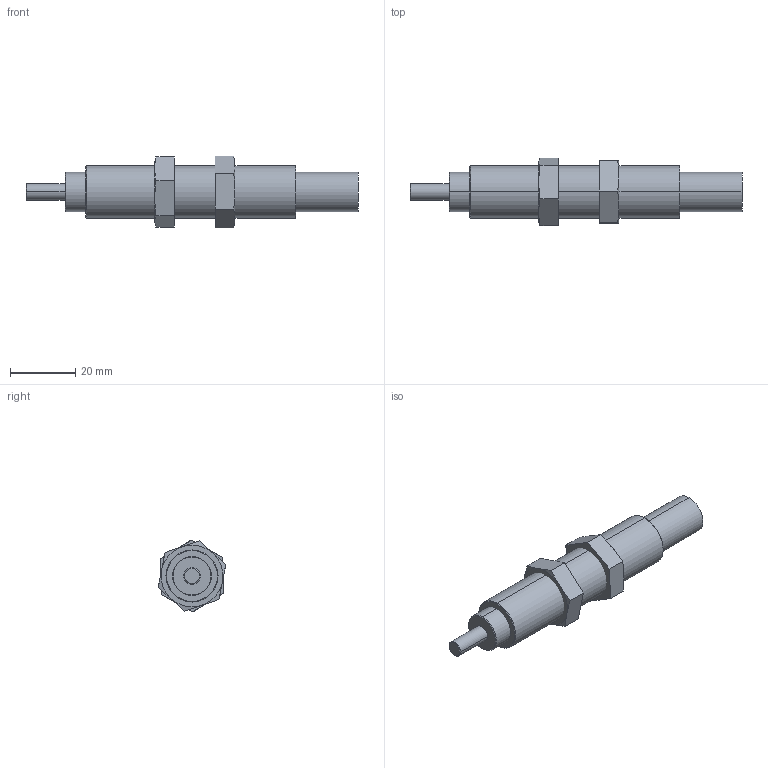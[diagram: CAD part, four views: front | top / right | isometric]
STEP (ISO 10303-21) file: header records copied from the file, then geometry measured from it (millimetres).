
FILE_DESCRIPTION (( 'STEP AP203' ), '1' );
FILE_NAME ('FSA-1612BB(CD).STEP', '2016-03-17T07:45:18', ( 'Sam Lin' ), ( '' ), 'SwSTEP 2.0', 'SolidWorks 2013', '' );
FILE_SCHEMA (( 'CONFIG_CONTROL_DESIGN' ));
Length unit declared in the file: metre
Products named in the file (3): FSA-1612BB(CD)_1; M16x1.5-6mm_1; FSA-1612BB(CD)
Assembly tree (3 placements, depth 2):
  FSA-1612BB(CD)
    FSA-1612BB(CD)_1
    M16x1.5-6mm_1  x2
Bounding box: 102 x 20.79 x 21.93 mm (x, y, z)
Volume: 17852.1 mm3; surface area: 6693.6 mm2
Topology: 3 solids, 3 shells, 53 faces, 118 edges, 74 vertices
Faces by surface type: plane 21, cylinder 12, bspline 12, cone 8
Entity records: 1469 total; most frequent: CARTESIAN_POINT 345, DIRECTION 172, ORIENTED_EDGE 164, EDGE_CURVE 82, AXIS2_PLACEMENT_3D 71, VERTEX_POINT 52, EDGE_LOOP 42, FACE_OUTER_BOUND 37
